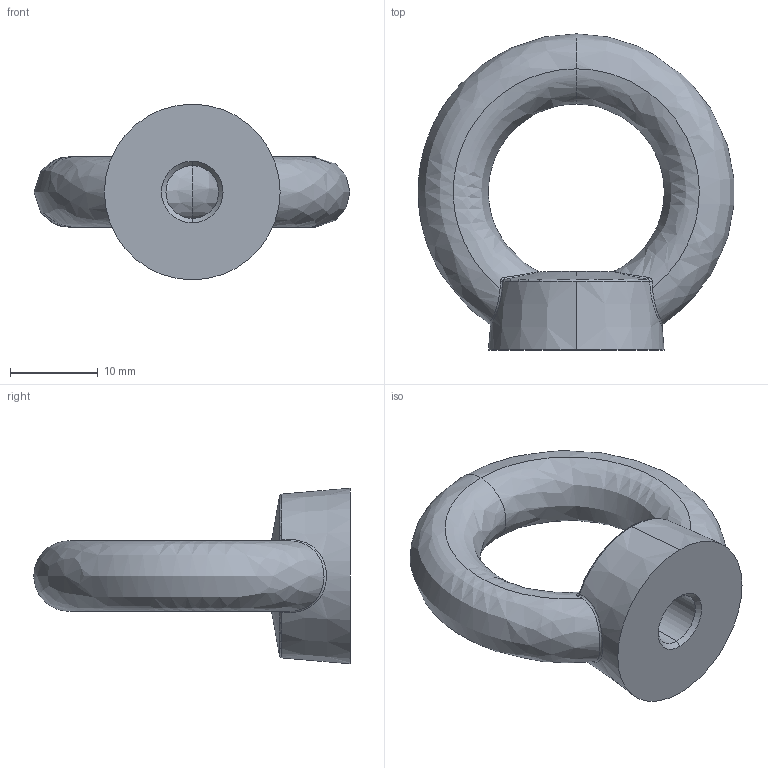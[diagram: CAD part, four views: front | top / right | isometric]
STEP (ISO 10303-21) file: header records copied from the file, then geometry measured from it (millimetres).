
FILE_DESCRIPTION (( 'STEP AP203' ), '1' );
FILE_NAME ('P4041.060-ZP.step', '2023-04-16T07:58:51', ( '' ), ( '' ), 'SwSTEP 2.0', 'SolidWorks 2019', '' );
FILE_SCHEMA (( 'CONFIG_CONTROL_DESIGN' ));
Length unit declared in the file: millimetre
Products named in the file (1): P4041.060-ZP
Bounding box: 35.93 x 35.99 x 20 mm (x, y, z)
Volume: 5741.8 mm3; surface area: 2850.8 mm2
Topology: 1 solids, 1 shells, 25 faces, 61 edges, 36 vertices
Faces by surface type: bspline 12, cone 6, torus 3, cylinder 2, plane 2
Entity records: 2919 total; most frequent: CARTESIAN_POINT 2329, ORIENTED_EDGE 122, DIRECTION 90, EDGE_CURVE 61, AXIS2_PLACEMENT_3D 41, VERTEX_POINT 36, CIRCLE 27, EDGE_LOOP 27
